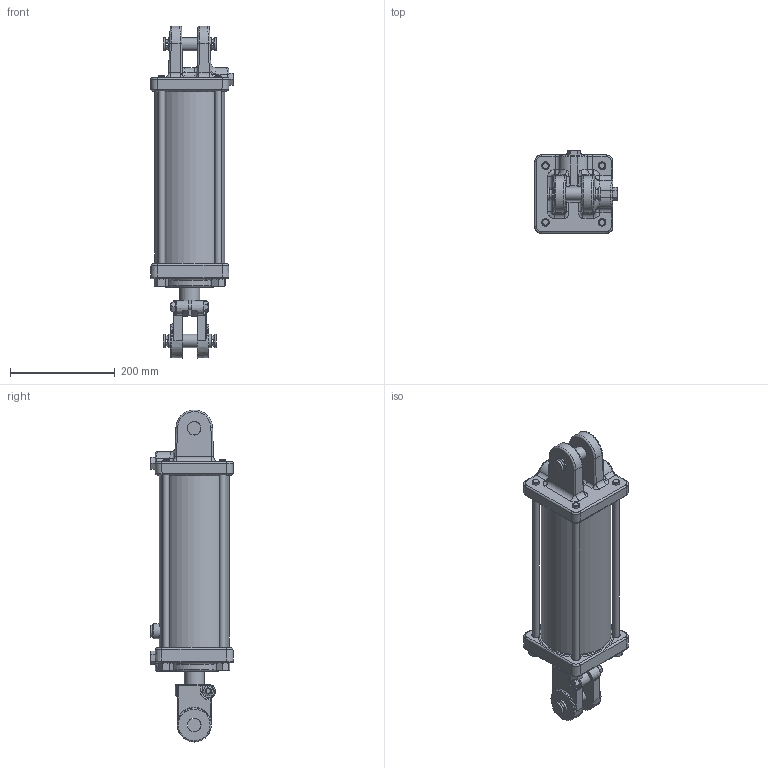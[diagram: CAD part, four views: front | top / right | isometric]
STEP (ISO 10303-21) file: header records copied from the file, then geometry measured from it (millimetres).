
FILE_DESCRIPTION((''),'2;1');
FILE_NAME('C:\Vault\Workspace\Vest\PMS-AM-2613.stp','2009-09-25T10:45:12',('newtonb'),(''),'Autodesk Inventor 2008','Autodesk Inventor 2008','');
FILE_SCHEMA(('AUTOMOTIVE_DESIGN { 1 0 10303 214 1 1 1 1 }'));
Length unit declared in the file: inch
Products named in the file (28): PMS-AM-2613V; 062100698V; 052100655V; 200300181V; 142100019V; 010800873V; 072100372V; 220000211V; 082100284V; 082100283V; 210800205V; 100000326V; 100000325V; 220000223V; 170002105V; 190400004V; 200300040V; 200300104V; 240011113V; 240000029V; 240000246V; 240061246V; 240020059V; 250014150V; 240064475V; 170301156AV; 170201176V; 220000107V
Assembly tree (35 placements, depth 3):
  PMS-AM-2613V
    062100698V
      052100655V
      200300181V
    142100019V
    010800873V
    072100372V
    220000211V
    082100284V
      082100283V
      210800205V
    100000326V
      100000325V
      220000223V
      170002105V
    190400004V  x2
    200300040V  x3
    200300104V
    240011113V
    240000029V
    240000246V  x2
    240061246V  x2
    240020059V
    250014150V
    240064475V
    170301156AV  x4
      170201176V
      220000107V
Bounding box: 157.66 x 157.67 x 632.49 mm (x, y, z)
Volume: 4016227 mm3; surface area: 766813.2 mm2
Topology: 34 solids, 34 shells, 1130 faces, 2548 edges, 1451 vertices
Faces by surface type: bspline 364, plane 278, cylinder 266, cone 161, torus 32, sphere 29
Full cylindrical faces by diameter (mm): 1.575 x1, 2.769 x1, 5.156 x2, 5.159 x2, 11.113 x1, 11.906 x2, 12.7 x4, 16.764 x3, 19.05 x4, 22.352 x1, 25.4 x6, 25.781 x2, 25.895 x2, 28.524 x1, 28.575 x1, 28.651 x1, 37.897 x1, 38.075 x2, 38.1 x1, 38.354 x1, 38.71 x1, 39.052 x1, 40.538 x1, 41.148 x1, 42.057 x2, 45.822 x1, 46.673 x1, 47.523 x1, 50.8 x1, 50.902 x1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
Entity records: 41354 total; most frequent: CARTESIAN_POINT 21177, ORIENTED_EDGE 3956, DIRECTION 3832, EDGE_CURVE 1978, AXIS2_PLACEMENT_3D 1632, VERTEX_POINT 1225, EDGE_LOOP 1211, FACE_OUTER_BOUND 972
